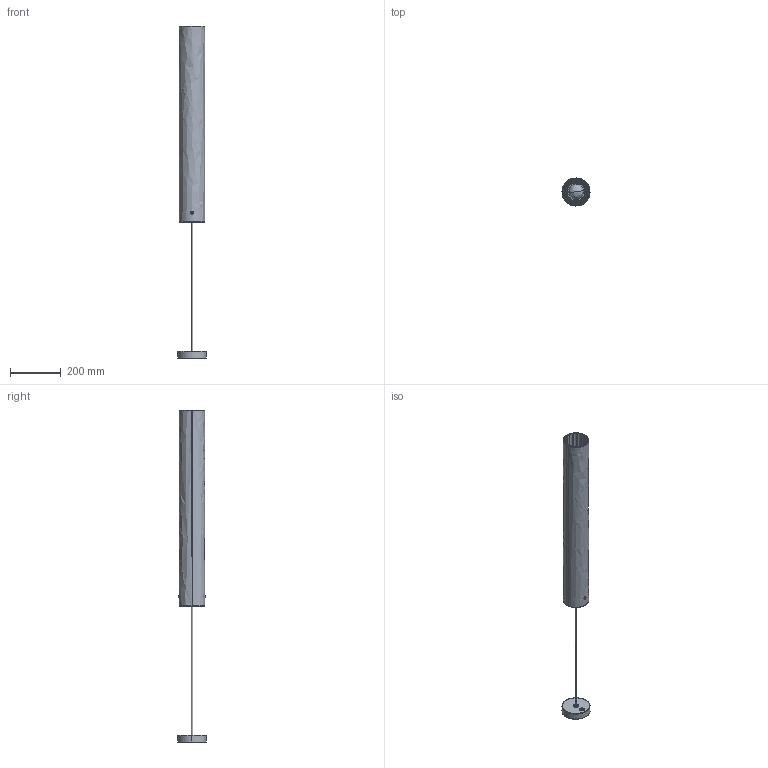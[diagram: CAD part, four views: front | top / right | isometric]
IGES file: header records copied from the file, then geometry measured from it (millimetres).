
Start section: SolidWorks IGES file using analytic representation for surfaces
Global section: file name: C:\Users\tungari.NEMOLIGHTING\Desktop\3D\PENDANT\3D_ILIUM_MAXI\3D_ILIUM_HALO_MAXI\3D_ILIUM_HALO_MAXI.IGS; native system: SolidWorks 2016; preprocessor: SolidWorks 2016; author: tungari; date: 180223.163208; units: millimetre
Bounding box: 109.97 x 109.97 x 1303.55 mm (x, y, z)
Surface area: 932571.4 mm2 (no closed solid volume)
Topology: 0 solids, 0 shells, 227 faces, 4722 edges, 4720 vertices
Faces by surface type: revolution 144, bspline 83
